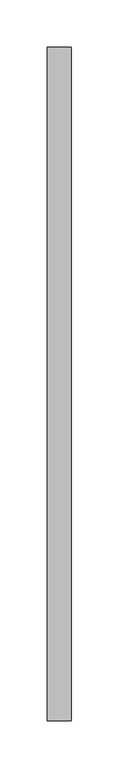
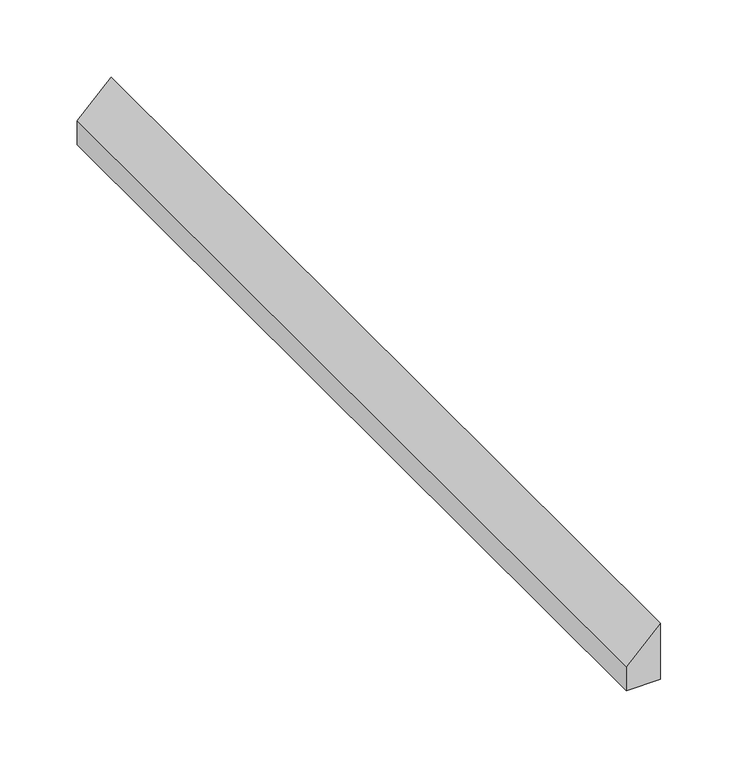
"""IFC4 building model written with IfcOpenShell, lengths in millimetres: proxy geometry, CAMBRIDGE^TABLE 2_4884 Rect-CORNER STILE 5."""

from ifc_helpers import new_model, si_unit, frame, origin, place, context, project, spatial, polyline, outline, extrude, source, transform, mapped, element, save


def generic_models_4b47a14f(model_context):
    return source(origin(), model_context, "Body", "SweptSolid", [
        extrude(outline(polyline([(-431.8, 1498.6), (-450.85, 1498.6), (-450.85, 1524.0), (-406.4, 1524.0), (-431.8, 1498.6)])), frame((0.0, -711.2, 0.0), z_axis=(0.0, 1.0, 0.0), x_axis=(0.0, 0.0, 1.0)), (0.0, 0.0, 1.0), 711.2),
    ])


if __name__ == "__main__":
    model = new_model("IFC4")
    model_context = context("Model", 3, world=origin())
    ifc_project = project(units=[si_unit("LENGTHUNIT", "METRE", prefix="MILLI")], contexts=[model_context])
    site = spatial("IfcSite", under=ifc_project)
    building = spatial("IfcBuilding", under=site)
    placement = place(None, origin())
    generic_models_shape = generic_models_4b47a14f(model_context)
    element("IfcBuildingElementProxy", 1, Name="CAMBRIDGE^TABLE 2_4884 Rect-CORNER STILE 5", ObjectType="CAMBRIDGE^TABLE 2_4884 Rect-CORNER STILE 5", at=placement, inside=building, context=model_context, shape_type="MappedRepresentation", body=[
        mapped(generic_models_shape, transform((0.0, 0.0, 0.0), x_axis=(1.0, 0.0, 0.0), y_axis=(0.0, 1.0, 0.0), z_axis=(0.0, 0.0, 1.0))),
    ])
    save(model, "model.ifc")
